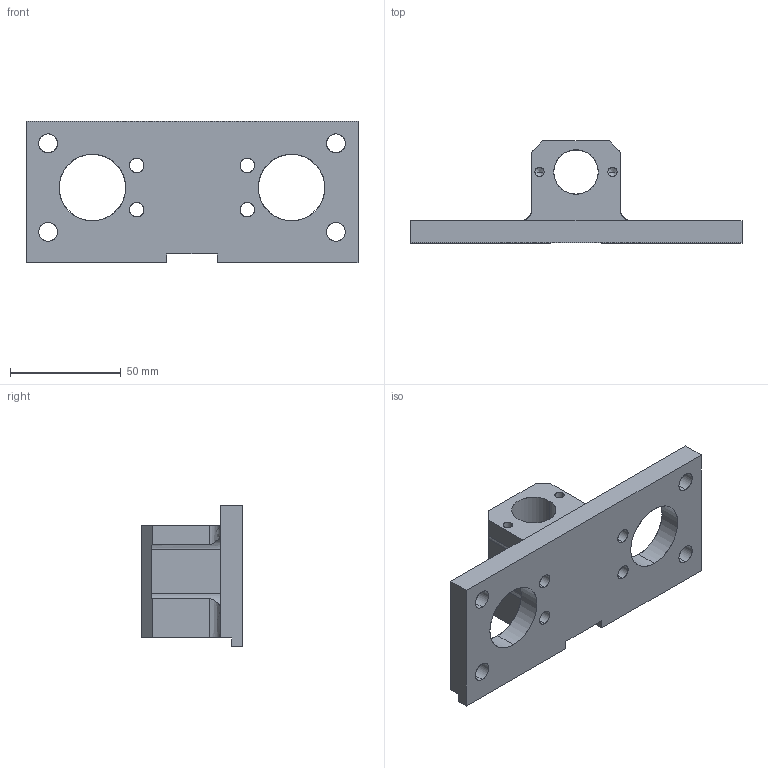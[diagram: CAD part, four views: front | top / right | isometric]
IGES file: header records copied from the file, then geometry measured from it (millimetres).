
Start section: SolidWorks IGES file using analytic representation for surfaces
Bounding box: 150 x 46 x 64 mm (x, y, z)
Surface area: 32723.8 mm2 (no closed solid volume)
Topology: 0 solids, 0 shells, 62 faces, 1328 edges, 1324 vertices
Faces by surface type: revolution 40, bspline 22
